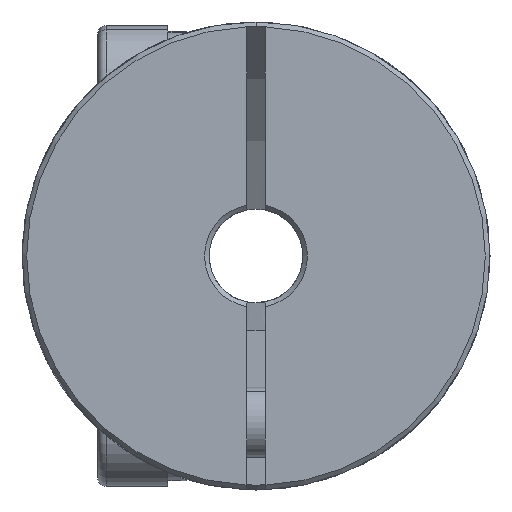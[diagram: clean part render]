
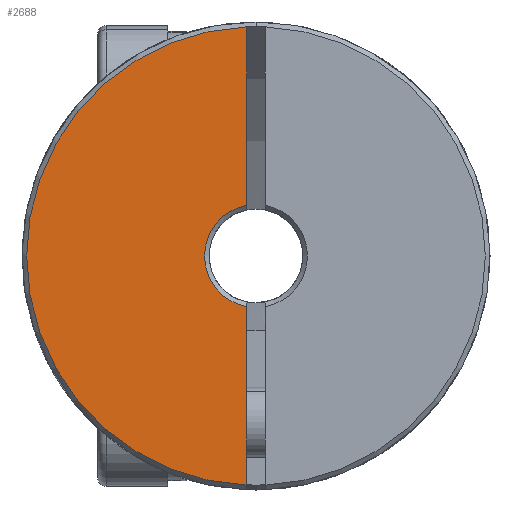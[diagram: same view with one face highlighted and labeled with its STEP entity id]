
A CAD part, front view. The second image highlights one B-rep face of the part: STEP entity #2688.
In plain terms, the highlighted planar face has unit normal (0, -1, 0).
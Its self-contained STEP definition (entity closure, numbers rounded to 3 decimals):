
#136 = CARTESIAN_POINT ( 'NONE',  ( -0.4, -17.5, 0. ) ) ;
#177 = DIRECTION ( 'NONE',  ( 0., 0., 1. ) ) ;
#430 = AXIS2_PLACEMENT_3D ( 'NONE', #7555, #6936, #1145 ) ;
#467 = VECTOR ( 'NONE', #3634, 1000. ) ;
#1087 = EDGE_LOOP ( 'NONE', ( #3390, #2572, #1161, #3758 ) ) ;
#1145 = DIRECTION ( 'NONE',  ( 0., 0., 1. ) ) ;
#1147 = VERTEX_POINT ( 'NONE', #2012 ) ;
#1161 = ORIENTED_EDGE ( 'NONE', *, *, #5558, .F. ) ;
#1544 = DIRECTION ( 'NONE',  ( 0., 0., 1. ) ) ;
#1566 = CARTESIAN_POINT ( 'NONE',  ( -0.4, -17.5, 0. ) ) ;
#1780 = CARTESIAN_POINT ( 'NONE',  ( -0.4, -17.5, -2.163 ) ) ;
#2000 = CARTESIAN_POINT ( 'NONE',  ( 0., -17.5, 0. ) ) ;
#2012 = CARTESIAN_POINT ( 'NONE',  ( -0.4, -17.5, 2.163 ) ) ;
#2091 = LINE ( 'NONE', #1566, #5927 ) ;
#2212 = DIRECTION ( 'NONE',  ( 0., -1., 0. ) ) ;
#2317 = CIRCLE ( 'NONE', #430, 2.2 ) ;
#2572 = ORIENTED_EDGE ( 'NONE', *, *, #6951, .T. ) ;
#2688 = ADVANCED_FACE ( 'NONE', ( #6153 ), #6591, .F. ) ;
#3030 = LINE ( 'NONE', #136, #467 ) ;
#3375 = VERTEX_POINT ( 'NONE', #3628 ) ;
#3390 = ORIENTED_EDGE ( 'NONE', *, *, #6902, .F. ) ;
#3628 = CARTESIAN_POINT ( 'NONE',  ( -0.4, -17.5, 9.792 ) ) ;
#3634 = DIRECTION ( 'NONE',  ( 0., 0., -1. ) ) ;
#3758 = ORIENTED_EDGE ( 'NONE', *, *, #4247, .T. ) ;
#3851 = VERTEX_POINT ( 'NONE', #5141 ) ;
#3889 = DIRECTION ( 'NONE',  ( 0., 0., -1. ) ) ;
#4113 = CIRCLE ( 'NONE', #5282, 9.8 ) ;
#4247 = EDGE_CURVE ( 'NONE', #4352, #1147, #2317, .T. ) ;
#4352 = VERTEX_POINT ( 'NONE', #1780 ) ;
#4868 = DIRECTION ( 'NONE',  ( 0., 1., 0. ) ) ;
#5141 = CARTESIAN_POINT ( 'NONE',  ( -0.4, -17.5, -9.792 ) ) ;
#5282 = AXIS2_PLACEMENT_3D ( 'NONE', #6841, #2212, #1544 ) ;
#5558 = EDGE_CURVE ( 'NONE', #4352, #3851, #3030, .T. ) ;
#5927 = VECTOR ( 'NONE', #3889, 1000. ) ;
#6153 = FACE_OUTER_BOUND ( 'NONE', #1087, .T. ) ;
#6591 = PLANE ( 'NONE',  #7338 ) ;
#6841 = CARTESIAN_POINT ( 'NONE',  ( 0., -17.5, 0. ) ) ;
#6902 = EDGE_CURVE ( 'NONE', #3375, #1147, #2091, .T. ) ;
#6936 = DIRECTION ( 'NONE',  ( 0., 1., 0. ) ) ;
#6951 = EDGE_CURVE ( 'NONE', #3375, #3851, #4113, .T. ) ;
#7338 = AXIS2_PLACEMENT_3D ( 'NONE', #2000, #4868, #177 ) ;
#7555 = CARTESIAN_POINT ( 'NONE',  ( 0., -17.5, 0. ) ) ;
